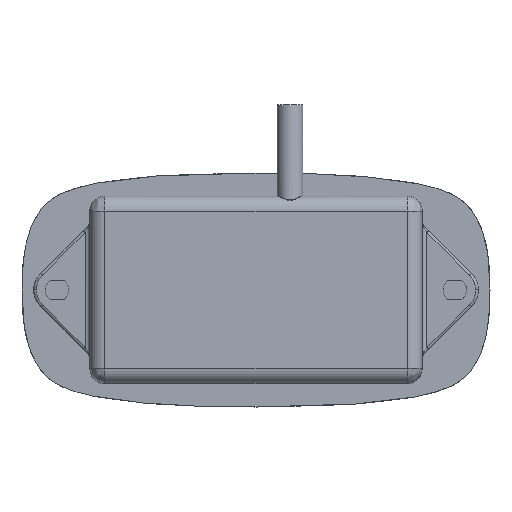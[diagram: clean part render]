
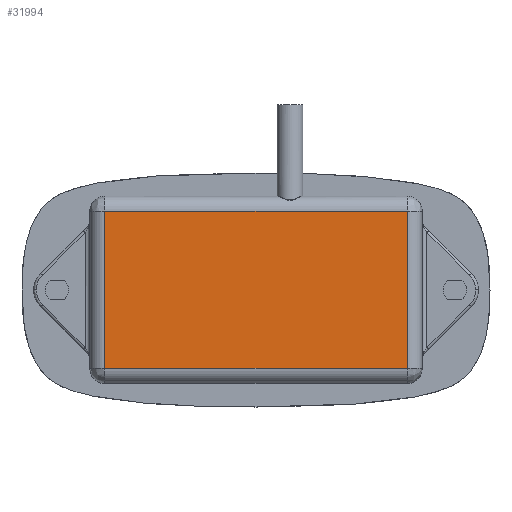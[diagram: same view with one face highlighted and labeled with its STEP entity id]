
A CAD part, top view. The second image highlights one B-rep face of the part: STEP entity #31994.
In plain terms, the highlighted planar face has unit normal (0, 0, 1).
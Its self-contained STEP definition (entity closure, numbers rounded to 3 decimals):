
#698 = DIRECTION ( 'NONE',  ( 0., 1., 0. ) ) ;
#991 = DIRECTION ( 'NONE',  ( 1., 0., 0. ) ) ;
#1222 = EDGE_CURVE ( 'NONE', #29250, #7026, #11063, .T. ) ;
#2336 = CARTESIAN_POINT ( 'NONE',  ( -32.3, -16.8, 26. ) ) ;
#4182 = CARTESIAN_POINT ( 'NONE',  ( 0., 0., 26. ) ) ;
#4909 = DIRECTION ( 'NONE',  ( 0., -1., 0. ) ) ;
#6362 = VERTEX_POINT ( 'NONE', #28326 ) ;
#6751 = DIRECTION ( 'NONE',  ( 1., 0., 0. ) ) ;
#7026 = VERTEX_POINT ( 'NONE', #29691 ) ;
#8010 = VERTEX_POINT ( 'NONE', #18422 ) ;
#8625 = LINE ( 'NONE', #28697, #29285 ) ;
#9495 = CARTESIAN_POINT ( 'NONE',  ( 0., -16.8, 26. ) ) ;
#10363 = EDGE_LOOP ( 'NONE', ( #11223, #13210, #26951, #18423 ) ) ;
#10394 = EDGE_CURVE ( 'NONE', #6362, #8010, #13601, .T. ) ;
#10494 = FACE_OUTER_BOUND ( 'NONE', #10363, .T. ) ;
#11063 = LINE ( 'NONE', #9495, #13980 ) ;
#11223 = ORIENTED_EDGE ( 'NONE', *, *, #21647, .F. ) ;
#11609 = DIRECTION ( 'NONE',  ( 1., 0., 0. ) ) ;
#11621 = VECTOR ( 'NONE', #6751, 1000. ) ;
#11647 = VECTOR ( 'NONE', #698, 1000. ) ;
#13210 = ORIENTED_EDGE ( 'NONE', *, *, #10394, .F. ) ;
#13601 = LINE ( 'NONE', #31052, #11621 ) ;
#13980 = VECTOR ( 'NONE', #11609, 1000. ) ;
#15259 = DIRECTION ( 'NONE',  ( 0., 0., 1. ) ) ;
#18422 = CARTESIAN_POINT ( 'NONE',  ( 32.3, 16.8, 26. ) ) ;
#18423 = ORIENTED_EDGE ( 'NONE', *, *, #1222, .T. ) ;
#18517 = EDGE_CURVE ( 'NONE', #29250, #6362, #25055, .T. ) ;
#19121 = AXIS2_PLACEMENT_3D ( 'NONE', #4182, #15259, #991 ) ;
#21647 = EDGE_CURVE ( 'NONE', #8010, #7026, #8625, .T. ) ;
#25055 = LINE ( 'NONE', #28216, #11647 ) ;
#26951 = ORIENTED_EDGE ( 'NONE', *, *, #18517, .F. ) ;
#28216 = CARTESIAN_POINT ( 'NONE',  ( -32.3, 0., 26. ) ) ;
#28326 = CARTESIAN_POINT ( 'NONE',  ( -32.3, 16.8, 26. ) ) ;
#28697 = CARTESIAN_POINT ( 'NONE',  ( 32.3, 0., 26. ) ) ;
#29250 = VERTEX_POINT ( 'NONE', #2336 ) ;
#29285 = VECTOR ( 'NONE', #4909, 1000. ) ;
#29561 = PLANE ( 'NONE',  #19121 ) ;
#29691 = CARTESIAN_POINT ( 'NONE',  ( 32.3, -16.8, 26. ) ) ;
#31052 = CARTESIAN_POINT ( 'NONE',  ( 0., 16.8, 26. ) ) ;
#31994 = ADVANCED_FACE ( 'NONE', ( #10494 ), #29561, .T. ) ;
